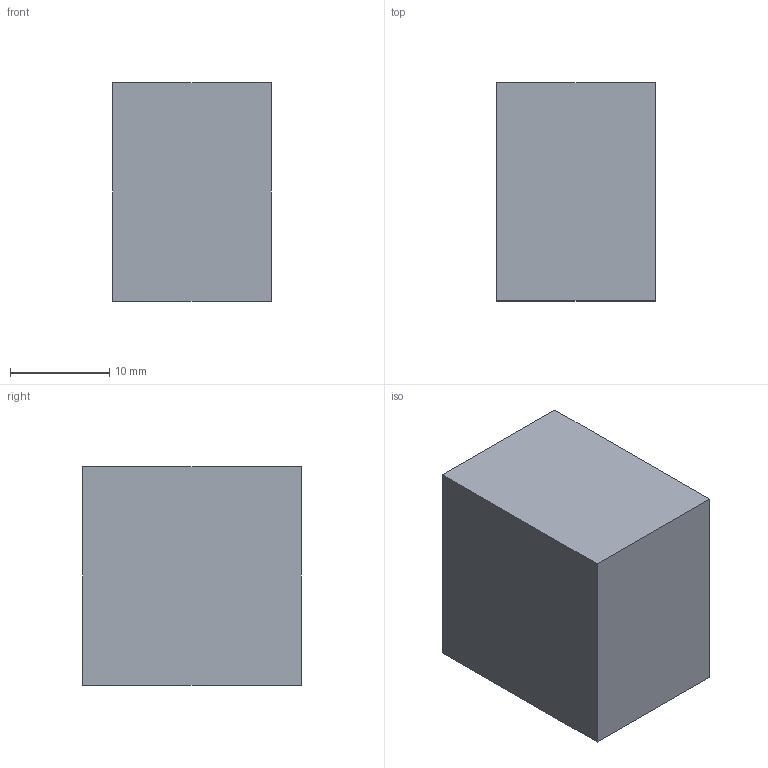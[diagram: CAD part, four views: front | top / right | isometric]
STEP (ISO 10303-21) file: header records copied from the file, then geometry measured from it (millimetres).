
FILE_DESCRIPTION(('Open CASCADE Model'),'2;1');
FILE_NAME('Open CASCADE Shape Model','2026-09-19T23:46:41',('Author'),( 'Open CASCADE'),'Open CASCADE STEP processor 7.9','Open CASCADE 7.9' ,'Unknown');
FILE_SCHEMA(('AUTOMOTIVE_DESIGN { 1 0 10303 214 1 1 1 1 }'));
Length unit declared in the file: millimetre
Products named in the file (1): Open CASCADE STEP translator 7.9 85
Bounding box: 16 x 22 x 22 mm (x, y, z)
Volume: 7744 mm3; surface area: 2376 mm2
Topology: 1 solids, 1 shells, 6 faces, 12 edges, 8 vertices
Faces by surface type: plane 6
Entity records: 322 total; most frequent: CARTESIAN_POINT 51, DIRECTION 50, LINE 36, VECTOR 36, ORIENTED_EDGE 24, PCURVE 24, DEFINITIONAL_REPRESENTATION 24, EDGE_CURVE 12
